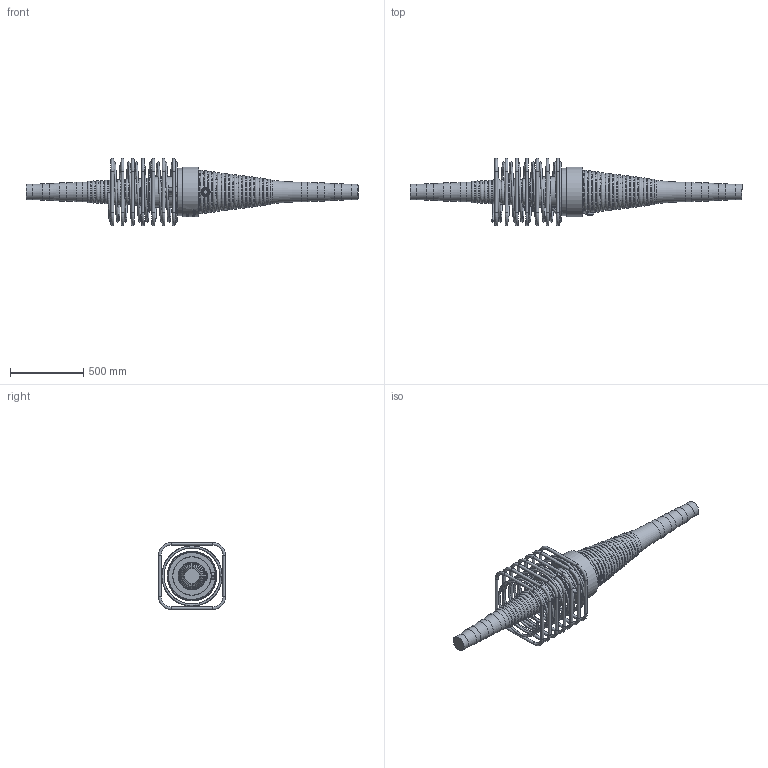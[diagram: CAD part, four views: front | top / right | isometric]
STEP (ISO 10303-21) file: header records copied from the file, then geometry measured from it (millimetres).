
FILE_DESCRIPTION(/* description */ (''),/* implementation_level */ '2;1');
FILE_NAME(/* name */ 'BBR VT CONA CMI BT 2406_Coupler K Assembly_CS-34,28.stp',/* time_stamp */ '2025-05-21T15:30:39+02:00',/* author */ ('tk'),/* organization */ (''),/* preprocessor_version */ 'ST-DEVELOPER v20',/* originating_system */ 'Autodesk Inventor 2024',/* authorisation */ '');
FILE_SCHEMA (('AUTOMOTIVE_DESIGN { 1 0 10303 214 3 1 1 }'));
Products named in the file (1): BBR VT CONA CMI BT 2406_Coupler K Assembly_CS-34,28
Bounding box: 2265.47 x 460 x 460 mm (x, y, z)
Volume: 68379496.9 mm3; surface area: 2753821.8 mm2
Topology: 9 solids, 9 shells, 1000 faces, 2642 edges, 1708 vertices
Faces by surface type: bspline 419, plane 269, torus 153, cylinder 121, cone 36, sphere 2
Full cylindrical faces by diameter (mm): 20 x28, 34 x2, 57 x2, 104 x2, 114 x2, 124 x2, 134 x2, 208 x1, 258 x1, 263 x1, 325 x1, 330 x1, 336 x1, 340 x1
Entity records: 47113 total; most frequent: CARTESIAN_POINT 24175, ORIENTED_EDGE 5264, DIRECTION 3738, EDGE_CURVE 2632, VERTEX_POINT 1708, AXIS2_PLACEMENT_3D 1388, EDGE_LOOP 1074, FACE_OUTER_BOUND 1000
